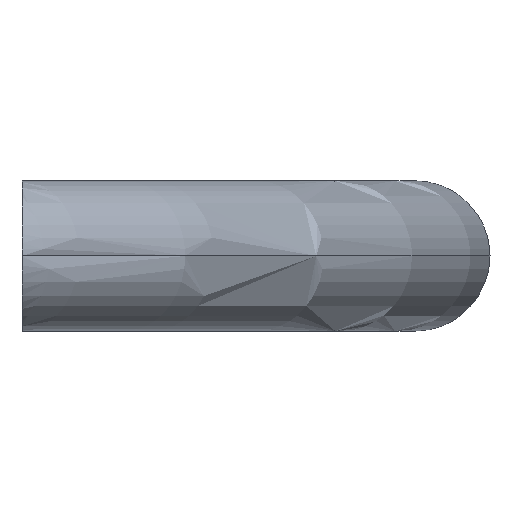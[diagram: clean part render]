
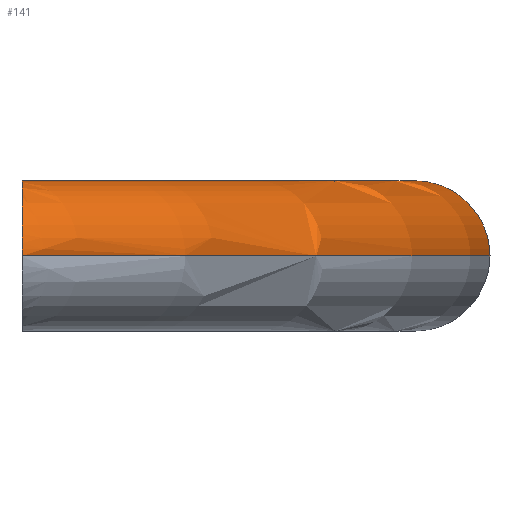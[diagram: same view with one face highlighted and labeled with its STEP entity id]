
A CAD part, left-side view. The second image highlights one B-rep face of the part: STEP entity #141.
In plain terms, the highlighted toroidal (fillet/blend) face has major radius 97 mm and minor radius 4.5 mm.
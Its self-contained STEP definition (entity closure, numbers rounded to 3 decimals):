
#119 = VERTEX_POINT( '', #321 );
#125 = VERTEX_POINT( '', #328 );
#127 = VERTEX_POINT( '', #330 );
#139 = EDGE_CURVE( '', #197, #169, #345, .T. );
#141 = ADVANCED_FACE( '', ( #347 ), #348, .T. );
#151 = VERTEX_POINT( '', #359 );
#155 = EDGE_CURVE( '', #169, #119, #364, .T. );
#165 = EDGE_CURVE( '', #127, #197, #374, .T. );
#169 = VERTEX_POINT( '', #378 );
#179 = EDGE_CURVE( '', #199, #151, #390, .T. );
#197 = VERTEX_POINT( '', #409 );
#199 = VERTEX_POINT( '', #411 );
#219 = EDGE_CURVE( '', #151, #119, #431, .T. );
#241 = EDGE_CURVE( '', #125, #127, #455, .T. );
#247 = EDGE_CURVE( '', #199, #271, #462, .T. );
#271 = VERTEX_POINT( '', #490 );
#287 = EDGE_CURVE( '', #271, #125, #509, .T. );
#321 = CARTESIAN_POINT( '', ( -22., 0., 0. ) );
#328 = CARTESIAN_POINT( '', ( 78., -18.744, 4.5 ) );
#330 = CARTESIAN_POINT( '', ( 18., -18.744, 4.5 ) );
#345 = B_SPLINE_CURVE_WITH_KNOTS( '', 3, ( #560, #561, #562, #563, #564, #565, #566, #567, #568, #569, #570, #571, #572, #573, #574, #575, #576, #577, #578, #579, #580, #581, #582, #583 ), .UNSPECIFIED., .F., .F., ( 4, 2, 2, 2, 2, 2, 2, 2, 2, 2, 2, 4 ), ( 25.801, 27.23, 27.944, 28.658, 29.798, 30.368, 30.938, 31.831, 32.278, 32.724, 33.457, 34.12 ), .UNSPECIFIED. );
#347 = FACE_OUTER_BOUND( '', #585, .T. );
#348 = TOROIDAL_SURFACE( '', #586, 97., 4.5 );
#359 = CARTESIAN_POINT( '', ( 118., 0., 0. ) );
#364 = CIRCLE( '', #605, 4.5 );
#374 = CIRCLE( '', #650, 97. );
#378 = CARTESIAN_POINT( '', ( -21.999, 0., 0.07 ) );
#390 = CIRCLE( '', #669, 4.5 );
#409 = CARTESIAN_POINT( '', ( -15.299, 0., 4.5 ) );
#411 = CARTESIAN_POINT( '', ( 117.999, 0., 0.07 ) );
#431 = CIRCLE( '', #779, 101.5 );
#455 = CIRCLE( '', #867, 97. );
#462 = B_SPLINE_CURVE_WITH_KNOTS( '', 3, ( #876, #877, #878, #879, #880, #881, #882, #883, #884, #885, #886, #887, #888, #889, #890, #891, #892, #893, #894, #895, #896, #897, #898, #899 ), .UNSPECIFIED., .F., .F., ( 4, 2, 2, 2, 2, 2, 2, 2, 2, 2, 2, 4 ), ( 0.069, 0.732, 1.465, 1.911, 2.358, 3.251, 3.821, 4.391, 5.531, 6.245, 6.959, 8.388 ), .UNSPECIFIED. );
#490 = CARTESIAN_POINT( '', ( 111.299, 0., 4.5 ) );
#509 = CIRCLE( '', #983, 97. );
#560 = CARTESIAN_POINT( '', ( -15.299, 0., 4.5 ) );
#561 = CARTESIAN_POINT( '', ( -15.775, 0., 4.5 ) );
#562 = CARTESIAN_POINT( '', ( -16.297, 0., 4.466 ) );
#563 = CARTESIAN_POINT( '', ( -17.07, 0., 4.35 ) );
#564 = CARTESIAN_POINT( '', ( -17.326, 0., 4.301 ) );
#565 = CARTESIAN_POINT( '', ( -17.822, 0., 4.184 ) );
#566 = CARTESIAN_POINT( '', ( -18.062, 0., 4.117 ) );
#567 = CARTESIAN_POINT( '', ( -18.65, 0., 3.924 ) );
#568 = CARTESIAN_POINT( '', ( -19.037, 0., 3.769 ) );
#569 = CARTESIAN_POINT( '', ( -19.59, 0., 3.484 ) );
#570 = CARTESIAN_POINT( '', ( -19.77, 0., 3.38 ) );
#571 = CARTESIAN_POINT( '', ( -20.111, 0., 3.161 ) );
#572 = CARTESIAN_POINT( '', ( -20.273, 0., 3.045 ) );
#573 = CARTESIAN_POINT( '', ( -20.654, 0., 2.742 ) );
#574 = CARTESIAN_POINT( '', ( -20.893, 0., 2.519 ) );
#575 = CARTESIAN_POINT( '', ( -21.209, 0., 2.149 ) );
#576 = CARTESIAN_POINT( '', ( -21.308, 0., 2.02 ) );
#577 = CARTESIAN_POINT( '', ( -21.485, 0., 1.757 ) );
#578 = CARTESIAN_POINT( '', ( -21.564, 0., 1.623 ) );
#579 = CARTESIAN_POINT( '', ( -21.742, 0., 1.273 ) );
#580 = CARTESIAN_POINT( '', ( -21.84, 0., 1.024 ) );
#581 = CARTESIAN_POINT( '', ( -21.963, 0., 0.534 ) );
#582 = CARTESIAN_POINT( '', ( -21.994, 0., 0.294 ) );
#583 = CARTESIAN_POINT( '', ( -21.999, 0., 0.07 ) );
#585 = EDGE_LOOP( '', ( #1037, #1038, #1039, #1040, #1041, #1042, #1043, #1044 ) );
#586 = AXIS2_PLACEMENT_3D( '', #1045, #1046, #1047 );
#605 = AXIS2_PLACEMENT_3D( '', #1071, #1072, #1073 );
#650 = AXIS2_PLACEMENT_3D( '', #1076, #1077, #1078 );
#669 = AXIS2_PLACEMENT_3D( '', #1092, #1093, #1094 );
#779 = AXIS2_PLACEMENT_3D( '', #1125, #1126, #1127 );
#867 = AXIS2_PLACEMENT_3D( '', #1146, #1147, #1148 );
#876 = CARTESIAN_POINT( '', ( 117.999, 0., 0.07 ) );
#877 = CARTESIAN_POINT( '', ( 117.994, 0., 0.294 ) );
#878 = CARTESIAN_POINT( '', ( 117.963, 0., 0.534 ) );
#879 = CARTESIAN_POINT( '', ( 117.84, 0., 1.024 ) );
#880 = CARTESIAN_POINT( '', ( 117.742, 0., 1.273 ) );
#881 = CARTESIAN_POINT( '', ( 117.564, 0., 1.623 ) );
#882 = CARTESIAN_POINT( '', ( 117.485, 0., 1.757 ) );
#883 = CARTESIAN_POINT( '', ( 117.308, 0., 2.02 ) );
#884 = CARTESIAN_POINT( '', ( 117.209, 0., 2.149 ) );
#885 = CARTESIAN_POINT( '', ( 116.893, 0., 2.519 ) );
#886 = CARTESIAN_POINT( '', ( 116.654, 0., 2.742 ) );
#887 = CARTESIAN_POINT( '', ( 116.273, 0., 3.045 ) );
#888 = CARTESIAN_POINT( '', ( 116.111, 0., 3.161 ) );
#889 = CARTESIAN_POINT( '', ( 115.77, 0., 3.38 ) );
#890 = CARTESIAN_POINT( '', ( 115.59, 0., 3.484 ) );
#891 = CARTESIAN_POINT( '', ( 115.037, 0., 3.769 ) );
#892 = CARTESIAN_POINT( '', ( 114.65, 0., 3.924 ) );
#893 = CARTESIAN_POINT( '', ( 114.062, 0., 4.117 ) );
#894 = CARTESIAN_POINT( '', ( 113.822, 0., 4.184 ) );
#895 = CARTESIAN_POINT( '', ( 113.326, 0., 4.301 ) );
#896 = CARTESIAN_POINT( '', ( 113.07, 0., 4.35 ) );
#897 = CARTESIAN_POINT( '', ( 112.297, 0., 4.466 ) );
#898 = CARTESIAN_POINT( '', ( 111.775, 0., 4.5 ) );
#899 = CARTESIAN_POINT( '', ( 111.299, 0., 4.5 ) );
#983 = AXIS2_PLACEMENT_3D( '', #1223, #1224, #1225 );
#1037 = ORIENTED_EDGE( '', *, *, #219, .F. );
#1038 = ORIENTED_EDGE( '', *, *, #179, .F. );
#1039 = ORIENTED_EDGE( '', *, *, #247, .T. );
#1040 = ORIENTED_EDGE( '', *, *, #287, .T. );
#1041 = ORIENTED_EDGE( '', *, *, #241, .T. );
#1042 = ORIENTED_EDGE( '', *, *, #165, .T. );
#1043 = ORIENTED_EDGE( '', *, *, #139, .T. );
#1044 = ORIENTED_EDGE( '', *, *, #155, .T. );
#1045 = CARTESIAN_POINT( '', ( 48., 73.5, 0. ) );
#1046 = DIRECTION( '', ( 0., 0., -1. ) );
#1047 = DIRECTION( '', ( -1., 0., 0. ) );
#1071 = CARTESIAN_POINT( '', ( -18.896, 3.258, 0. ) );
#1072 = DIRECTION( '', ( 0.724, -0.69, 0. ) );
#1073 = DIRECTION( '', ( 0., 0., 1. ) );
#1076 = CARTESIAN_POINT( '', ( 48., 73.5, 4.5 ) );
#1077 = DIRECTION( '', ( 0., 0., -1. ) );
#1078 = DIRECTION( '', ( 0.69, -0.724, 0. ) );
#1092 = CARTESIAN_POINT( '', ( 114.896, 3.258, 0. ) );
#1093 = DIRECTION( '', ( 0.724, 0.69, 0. ) );
#1094 = DIRECTION( '', ( 0., 0., 1. ) );
#1125 = CARTESIAN_POINT( '', ( 48., 73.5, 0. ) );
#1126 = DIRECTION( '', ( 0., 0., -1. ) );
#1127 = DIRECTION( '', ( -1., 0., 0. ) );
#1146 = CARTESIAN_POINT( '', ( 48., 73.5, 4.5 ) );
#1147 = DIRECTION( '', ( 0., 0., -1. ) );
#1148 = DIRECTION( '', ( 0.69, -0.724, 0. ) );
#1223 = CARTESIAN_POINT( '', ( 48., 73.5, 4.5 ) );
#1224 = DIRECTION( '', ( 0., 0., -1. ) );
#1225 = DIRECTION( '', ( 0.69, -0.724, 0. ) );
